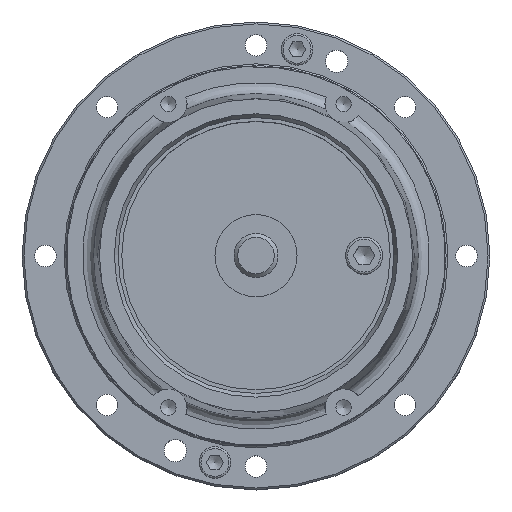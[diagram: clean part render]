
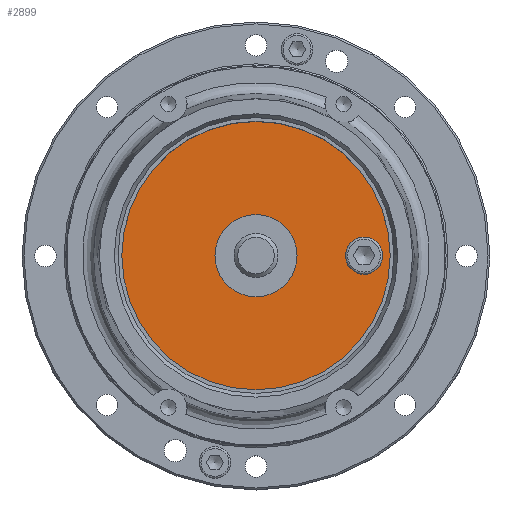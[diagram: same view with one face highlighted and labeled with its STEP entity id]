
A CAD part, top view. The second image highlights one B-rep face of the part: STEP entity #2899.
In plain terms, the highlighted planar face has unit normal (0, 0, 1).
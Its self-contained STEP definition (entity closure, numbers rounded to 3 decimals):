
#1298=CARTESIAN_POINT('',(31.459,0.,97.));
#1299=VERTEX_POINT('',#1298);
#1300=CARTESIAN_POINT('',(29.,0.,97.));
#1301=DIRECTION('',(0.0,0.0,-1.0));
#1302=DIRECTION('',(1.0,0.0,0.0));
#1303=AXIS2_PLACEMENT_3D('',#1300,#1301,#1302);
#1304=CIRCLE('',#1303,2.459);
#1305=EDGE_CURVE('',#1299,#1299,#1304,.T.);
#2862=CARTESIAN_POINT('',(0.0,-36.0,97.));
#2863=VERTEX_POINT('',#2862);
#2864=CARTESIAN_POINT('',(0.0,0.,97.));
#2865=DIRECTION('',(0.0,0.0,1.0));
#2866=DIRECTION('',(0.0,-1.0,0.0));
#2867=AXIS2_PLACEMENT_3D('',#2864,#2865,#2866);
#2868=CIRCLE('',#2867,36.0);
#2869=EDGE_CURVE('',#2863,#2863,#2868,.T.);
#2877=CARTESIAN_POINT('',(0.0,-23.5,97.));
#2878=DIRECTION('',(0.0,0.0,1.0));
#2879=DIRECTION('',(1.0,0.0,0.0));
#2880=AXIS2_PLACEMENT_3D('',#2877,#2878,#2879);
#2881=PLANE('',#2880);
#2882=ORIENTED_EDGE('',*,*,#2869,.T.);
#2883=EDGE_LOOP('',(#2882));
#2884=FACE_OUTER_BOUND('',#2883,.T.);
#2885=ORIENTED_EDGE('',*,*,#1305,.T.);
#2886=EDGE_LOOP('',(#2885));
#2887=FACE_BOUND('',#2886,.T.);
#2888=CARTESIAN_POINT('',(0.0,-11.0,97.));
#2889=VERTEX_POINT('',#2888);
#2890=CARTESIAN_POINT('',(0.0,0.,97.));
#2891=DIRECTION('',(0.0,0.0,1.0));
#2892=DIRECTION('',(0.0,-1.0,0.0));
#2893=AXIS2_PLACEMENT_3D('',#2890,#2891,#2892);
#2894=CIRCLE('',#2893,11.);
#2895=EDGE_CURVE('',#2889,#2889,#2894,.T.);
#2896=ORIENTED_EDGE('',*,*,#2895,.F.);
#2897=EDGE_LOOP('',(#2896));
#2898=FACE_BOUND('',#2897,.T.);
#2899=ADVANCED_FACE('',(#2884,#2887,#2898),#2881,.T.);
